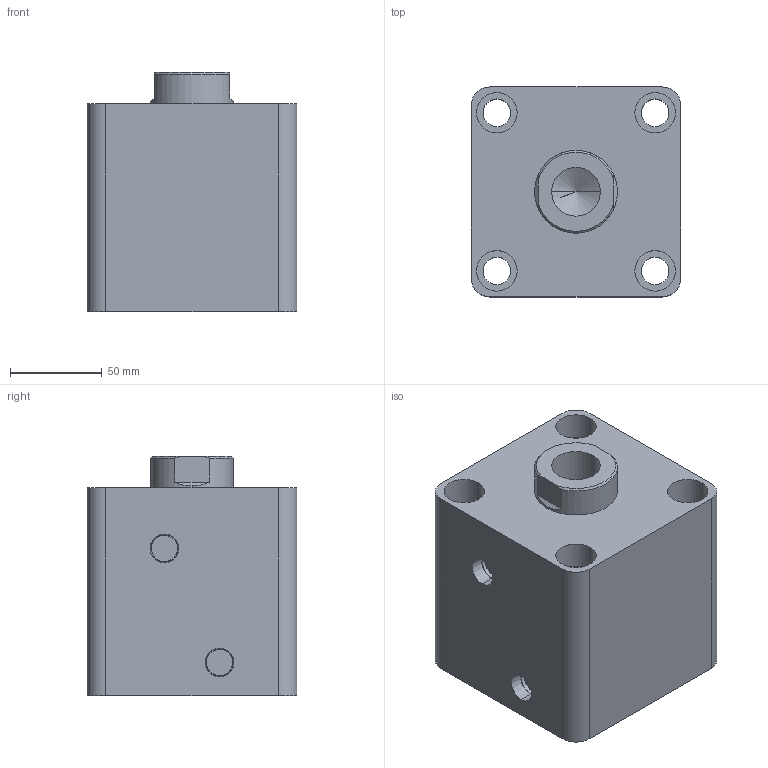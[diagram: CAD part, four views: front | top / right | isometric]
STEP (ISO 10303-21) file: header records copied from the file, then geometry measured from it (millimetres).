
FILE_DESCRIPTION (( 'STEP AP203' ), '1' );
FILE_NAME ('HTB-SD80-35N.STEP', '2019-10-07T08:18:33', ( '微软用户' ), ( '微软中国' ), 'SwSTEP 2.0', 'SolidWorks 2012', '' );
FILE_SCHEMA (( 'CONFIG_CONTROL_DESIGN' ));
Length unit declared in the file: millimetre
Products named in the file (3): HTB-SD80-35N; HTB-SD80-35N活塞杆; HTB-SD80-35掛极
Assembly tree (2 placements, depth 2):
  HTB-SD80-35N
    HTB-SD80-35掛极
    HTB-SD80-35N活塞杆
Bounding box: 114 x 114 x 130 mm (x, y, z)
Volume: 1236063 mm3; surface area: 159242.8 mm2
Topology: 2 solids, 2 shells, 83 faces, 184 edges, 119 vertices
Faces by surface type: cylinder 42, plane 27, cone 8, torus 6
Entity records: 2655 total; most frequent: DIRECTION 456, CARTESIAN_POINT 417, ORIENTED_EDGE 364, AXIS2_PLACEMENT_3D 194, EDGE_CURVE 182, VERTEX_POINT 119, EDGE_LOOP 107, CIRCLE 106
